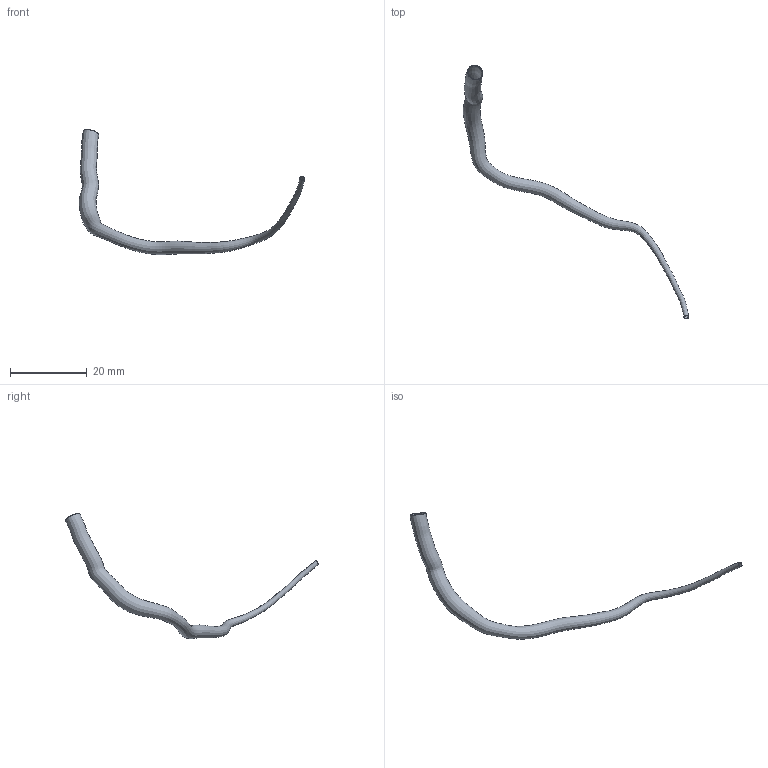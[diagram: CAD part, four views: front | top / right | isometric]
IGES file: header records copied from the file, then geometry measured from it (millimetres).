
Global section: file name: C:\Documents and Settings\Administrator\Desktop\FDA-Pig\Domestic LCA\Pig_000006\lad.seg.es.igs; native system: Rhinoceros ( May 19 2006 ); preprocessor: Trout Lake IGES 012 May 19 2006; date: 111205.183543; units: centimetre
Bounding box: 58.65 x 65.88 x 32.61 mm (x, y, z)
Surface area: 2088 mm2 (no closed solid volume)
Topology: 0 solids, 0 shells, 4 faces, 13 edges, 10 vertices
Faces by surface type: bspline 4
